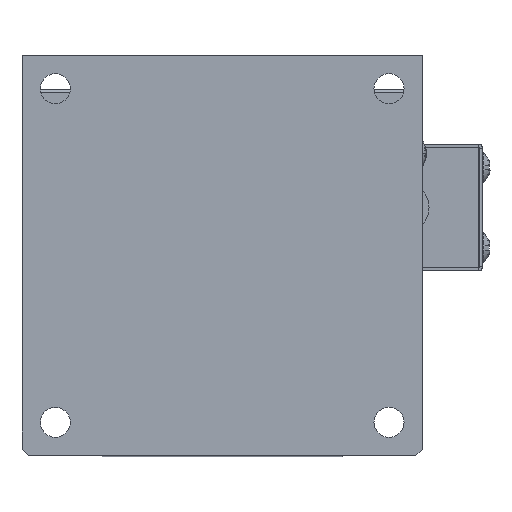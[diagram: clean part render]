
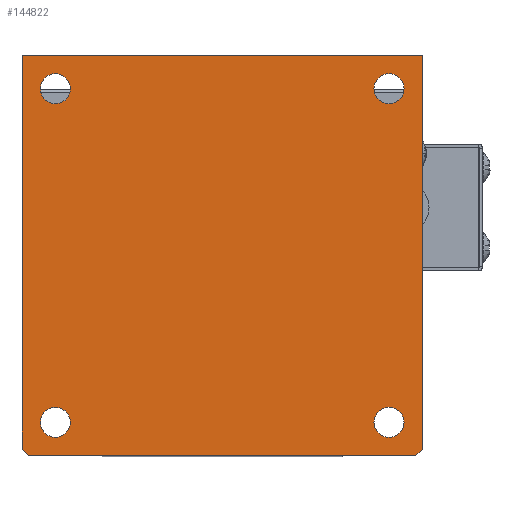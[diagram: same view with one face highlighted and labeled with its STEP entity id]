
A CAD part, top view. The second image highlights one B-rep face of the part: STEP entity #144822.
In plain terms, the highlighted planar face has unit normal (0, 0, 1) as drawn and (0, 0, -1) by its records, which use the part's own axes.
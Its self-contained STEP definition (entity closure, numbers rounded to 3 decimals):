
#136 = LINE ( 'NONE', #141184, #125429 ) ;
#167 = CARTESIAN_POINT ( 'NONE',  ( 30., -30., -5. ) ) ;
#811 = PLANE ( 'NONE',  #10201 ) ;
#2794 = EDGE_LOOP ( 'NONE', ( #152740, #143159, #20866, #15704, #100726, #147506 ) ) ;
#3349 = EDGE_CURVE ( 'NONE', #29525, #20454, #115382, .T. ) ;
#3548 = VERTEX_POINT ( 'NONE', #82257 ) ;
#4575 = EDGE_LOOP ( 'NONE', ( #136497, #101727 ) ) ;
#7795 = VERTEX_POINT ( 'NONE', #13282 ) ;
#8244 = AXIS2_PLACEMENT_3D ( 'NONE', #116521, #79596, #53112 ) ;
#10201 = AXIS2_PLACEMENT_3D ( 'NONE', #13607, #144391, #105839 ) ;
#11911 = CARTESIAN_POINT ( 'NONE',  ( -30., 30., -5. ) ) ;
#12045 = AXIS2_PLACEMENT_3D ( 'NONE', #135158, #106966, #134310 ) ;
#13282 = CARTESIAN_POINT ( 'NONE',  ( 30., 29., -5. ) ) ;
#13607 = CARTESIAN_POINT ( 'NONE',  ( 0., 0., -5. ) ) ;
#14137 = ORIENTED_EDGE ( 'NONE', *, *, #21453, .T. ) ;
#14658 = VERTEX_POINT ( 'NONE', #125087 ) ;
#15704 = ORIENTED_EDGE ( 'NONE', *, *, #142959, .F. ) ;
#17598 = DIRECTION ( 'NONE',  ( 0.707, -0.707, 0. ) ) ;
#18521 = VERTEX_POINT ( 'NONE', #129572 ) ;
#20454 = VERTEX_POINT ( 'NONE', #51258 ) ;
#20866 = ORIENTED_EDGE ( 'NONE', *, *, #34780, .F. ) ;
#21453 = EDGE_CURVE ( 'NONE', #50716, #42932, #60020, .T. ) ;
#21515 = VERTEX_POINT ( 'NONE', #146399 ) ;
#22069 = AXIS2_PLACEMENT_3D ( 'NONE', #51871, #75801, #128039 ) ;
#24727 = DIRECTION ( 'NONE',  ( -1., 0., 0. ) ) ;
#26243 = AXIS2_PLACEMENT_3D ( 'NONE', #144784, #42068, #156745 ) ;
#27833 = EDGE_CURVE ( 'NONE', #21515, #3548, #113282, .T. ) ;
#28032 = DIRECTION ( 'NONE',  ( 1., 0., 0. ) ) ;
#29352 = VECTOR ( 'NONE', #17598, 1000. ) ;
#29525 = VERTEX_POINT ( 'NONE', #107136 ) ;
#29711 = CARTESIAN_POINT ( 'NONE',  ( -22.75, 25., -5. ) ) ;
#34181 = AXIS2_PLACEMENT_3D ( 'NONE', #141121, #64112, #65808 ) ;
#34780 = EDGE_CURVE ( 'NONE', #74883, #7795, #100865, .T. ) ;
#36635 = FACE_BOUND ( 'NONE', #62517, .T. ) ;
#37904 = CARTESIAN_POINT ( 'NONE',  ( 25., 25., -5. ) ) ;
#41318 = AXIS2_PLACEMENT_3D ( 'NONE', #109060, #82488, #123602 ) ;
#42068 = DIRECTION ( 'NONE',  ( 0., 0., 1. ) ) ;
#42932 = VERTEX_POINT ( 'NONE', #29711 ) ;
#45338 = EDGE_CURVE ( 'NONE', #3548, #21515, #148977, .T. ) ;
#50716 = VERTEX_POINT ( 'NONE', #133174 ) ;
#50725 = DIRECTION ( 'NONE',  ( 0., 0., 1. ) ) ;
#51258 = CARTESIAN_POINT ( 'NONE',  ( 27.25, 25., -5. ) ) ;
#51616 = VECTOR ( 'NONE', #24727, 1000. ) ;
#51871 = CARTESIAN_POINT ( 'NONE',  ( 25., -25., -5. ) ) ;
#52219 = EDGE_CURVE ( 'NONE', #18521, #7795, #83254, .T. ) ;
#52961 = DIRECTION ( 'NONE',  ( 0., -1., 0. ) ) ;
#53112 = DIRECTION ( 'NONE',  ( 1., 0., 0. ) ) ;
#53622 = FACE_BOUND ( 'NONE', #4575, .T. ) ;
#53764 = EDGE_CURVE ( 'NONE', #42932, #50716, #139783, .T. ) ;
#60020 = CIRCLE ( 'NONE', #8244, 2.25 ) ;
#62517 = EDGE_LOOP ( 'NONE', ( #100072, #90858 ) ) ;
#63171 = LINE ( 'NONE', #11911, #51616 ) ;
#64112 = DIRECTION ( 'NONE',  ( 0., 0., 1. ) ) ;
#65808 = DIRECTION ( 'NONE',  ( 1., 0., 0. ) ) ;
#66306 = VERTEX_POINT ( 'NONE', #166379 ) ;
#69297 = ORIENTED_EDGE ( 'NONE', *, *, #53764, .T. ) ;
#74883 = VERTEX_POINT ( 'NONE', #167 ) ;
#75801 = DIRECTION ( 'NONE',  ( 0., 0., 1. ) ) ;
#76743 = FACE_BOUND ( 'NONE', #107376, .T. ) ;
#78362 = CARTESIAN_POINT ( 'NONE',  ( -25., -25., -5. ) ) ;
#79314 = CIRCLE ( 'NONE', #22069, 2.25 ) ;
#79596 = DIRECTION ( 'NONE',  ( 0., 0., 1. ) ) ;
#82257 = CARTESIAN_POINT ( 'NONE',  ( -22.75, -25., -5. ) ) ;
#82488 = DIRECTION ( 'NONE',  ( 0., 0., 1. ) ) ;
#83254 = LINE ( 'NONE', #135520, #29352 ) ;
#86857 = CARTESIAN_POINT ( 'NONE',  ( -30., 29., -5. ) ) ;
#88163 = EDGE_CURVE ( 'NONE', #152565, #136730, #136, .T. ) ;
#88768 = AXIS2_PLACEMENT_3D ( 'NONE', #78362, #92923, #28032 ) ;
#90858 = ORIENTED_EDGE ( 'NONE', *, *, #100143, .T. ) ;
#91274 = FACE_BOUND ( 'NONE', #152371, .T. ) ;
#92923 = DIRECTION ( 'NONE',  ( 0., 0., 1. ) ) ;
#96999 = EDGE_CURVE ( 'NONE', #140035, #66306, #79314, .T. ) ;
#98644 = VECTOR ( 'NONE', #153086, 1000. ) ;
#99861 = CIRCLE ( 'NONE', #26243, 2.25 ) ;
#100072 = ORIENTED_EDGE ( 'NONE', *, *, #96999, .T. ) ;
#100143 = EDGE_CURVE ( 'NONE', #66306, #140035, #151294, .T. ) ;
#100726 = ORIENTED_EDGE ( 'NONE', *, *, #88163, .F. ) ;
#100865 = LINE ( 'NONE', #152216, #98644 ) ;
#101727 = ORIENTED_EDGE ( 'NONE', *, *, #27833, .T. ) ;
#103204 = LINE ( 'NONE', #155433, #145069 ) ;
#105839 = DIRECTION ( 'NONE',  ( 1., 0., 0. ) ) ;
#106966 = DIRECTION ( 'NONE',  ( 0., 0., 1. ) ) ;
#107136 = CARTESIAN_POINT ( 'NONE',  ( 22.75, 25., -5. ) ) ;
#107376 = EDGE_LOOP ( 'NONE', ( #69297, #14137 ) ) ;
#109060 = CARTESIAN_POINT ( 'NONE',  ( -25., 25., -5. ) ) ;
#113282 = CIRCLE ( 'NONE', #88768, 2.25 ) ;
#113453 = EDGE_CURVE ( 'NONE', #20454, #29525, #99861, .T. ) ;
#114966 = DIRECTION ( 'NONE',  ( 1., 0., 0. ) ) ;
#115382 = CIRCLE ( 'NONE', #131712, 2.25 ) ;
#116006 = VECTOR ( 'NONE', #167155, 1000. ) ;
#116521 = CARTESIAN_POINT ( 'NONE',  ( -25., 25., -5. ) ) ;
#117408 = ORIENTED_EDGE ( 'NONE', *, *, #113453, .T. ) ;
#120847 = EDGE_CURVE ( 'NONE', #152565, #14658, #103204, .T. ) ;
#123602 = DIRECTION ( 'NONE',  ( 1., 0., 0. ) ) ;
#125087 = CARTESIAN_POINT ( 'NONE',  ( -29., 30., -5. ) ) ;
#125429 = VECTOR ( 'NONE', #52961, 1000. ) ;
#126922 = LINE ( 'NONE', #127743, #116006 ) ;
#127743 = CARTESIAN_POINT ( 'NONE',  ( -30., -30., -5. ) ) ;
#128039 = DIRECTION ( 'NONE',  ( 1., 0., 0. ) ) ;
#129572 = CARTESIAN_POINT ( 'NONE',  ( 29., 30., -5. ) ) ;
#131712 = AXIS2_PLACEMENT_3D ( 'NONE', #37904, #50725, #114966 ) ;
#133174 = CARTESIAN_POINT ( 'NONE',  ( -27.25, 25., -5. ) ) ;
#134310 = DIRECTION ( 'NONE',  ( 1., 0., 0. ) ) ;
#135158 = CARTESIAN_POINT ( 'NONE',  ( 25., -25., -5. ) ) ;
#135520 = CARTESIAN_POINT ( 'NONE',  ( 29., 30., -5. ) ) ;
#136317 = CARTESIAN_POINT ( 'NONE',  ( -30., -30., -5. ) ) ;
#136497 = ORIENTED_EDGE ( 'NONE', *, *, #45338, .T. ) ;
#136730 = VERTEX_POINT ( 'NONE', #136317 ) ;
#139783 = CIRCLE ( 'NONE', #41318, 2.25 ) ;
#140035 = VERTEX_POINT ( 'NONE', #140680 ) ;
#140090 = DIRECTION ( 'NONE',  ( 0.707, 0.707, 0. ) ) ;
#140680 = CARTESIAN_POINT ( 'NONE',  ( 27.25, -25., -5. ) ) ;
#141121 = CARTESIAN_POINT ( 'NONE',  ( -25., -25., -5. ) ) ;
#141184 = CARTESIAN_POINT ( 'NONE',  ( -30., 30., -5. ) ) ;
#142959 = EDGE_CURVE ( 'NONE', #136730, #74883, #126922, .T. ) ;
#143159 = ORIENTED_EDGE ( 'NONE', *, *, #52219, .T. ) ;
#144391 = DIRECTION ( 'NONE',  ( 0., 0., 1. ) ) ;
#144784 = CARTESIAN_POINT ( 'NONE',  ( 25., 25., -5. ) ) ;
#144822 = ADVANCED_FACE ( 'NONE', ( #36635, #53622, #156353, #76743, #91274 ), #811, .F. ) ;
#145069 = VECTOR ( 'NONE', #140090, 1000. ) ;
#146399 = CARTESIAN_POINT ( 'NONE',  ( -27.25, -25., -5. ) ) ;
#147506 = ORIENTED_EDGE ( 'NONE', *, *, #120847, .T. ) ;
#148977 = CIRCLE ( 'NONE', #34181, 2.25 ) ;
#151294 = CIRCLE ( 'NONE', #12045, 2.25 ) ;
#152216 = CARTESIAN_POINT ( 'NONE',  ( 30., 30., -5. ) ) ;
#152371 = EDGE_LOOP ( 'NONE', ( #117408, #156064 ) ) ;
#152565 = VERTEX_POINT ( 'NONE', #86857 ) ;
#152740 = ORIENTED_EDGE ( 'NONE', *, *, #153154, .F. ) ;
#153086 = DIRECTION ( 'NONE',  ( 0., 1., 0. ) ) ;
#153154 = EDGE_CURVE ( 'NONE', #18521, #14658, #63171, .T. ) ;
#155433 = CARTESIAN_POINT ( 'NONE',  ( -30., 29., -5. ) ) ;
#156064 = ORIENTED_EDGE ( 'NONE', *, *, #3349, .T. ) ;
#156353 = FACE_OUTER_BOUND ( 'NONE', #2794, .T. ) ;
#156745 = DIRECTION ( 'NONE',  ( 1., 0., 0. ) ) ;
#166379 = CARTESIAN_POINT ( 'NONE',  ( 22.75, -25., -5. ) ) ;
#167155 = DIRECTION ( 'NONE',  ( 1., 0., 0. ) ) ;
